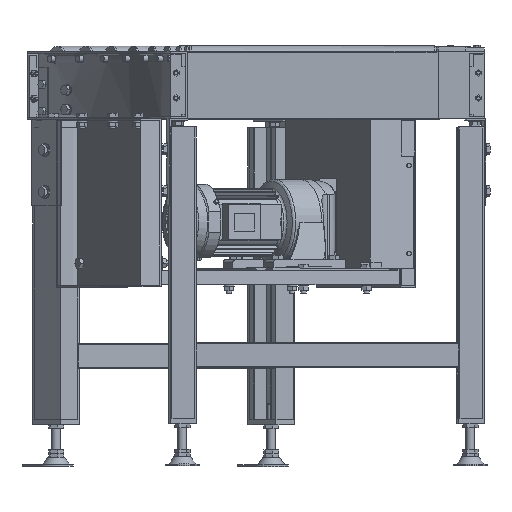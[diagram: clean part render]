
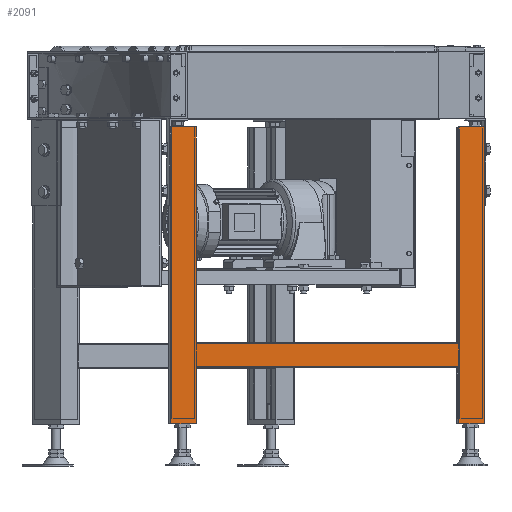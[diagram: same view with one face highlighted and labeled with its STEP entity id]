
A CAD part, top view. The second image highlights one B-rep face of the part: STEP entity #2091.
In plain terms, the highlighted planar face has unit normal (0.057, 0, 0.998).
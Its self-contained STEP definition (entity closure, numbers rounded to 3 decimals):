
#2091=ADVANCED_FACE('',(#16438),#16437,.T.);
#16437=PLANE('',#37655);
#16438=FACE_OUTER_BOUND('',#37656,.T.);
#37652=CARTESIAN_POINT('',(860.744,-685.,-11.197));
#37653=DIRECTION('',(0.057,0.,0.998));
#37654=DIRECTION('',(0.998,0.,-0.057));
#37655=AXIS2_PLACEMENT_3D('',#37652,#37653,#37654);
#37656=EDGE_LOOP('',(#51313,#51314,#51315,#51316,#51317,#51318,#51319,#51320,#51321,#51322,#51323,#51324,#51325,#51326));
#51313=ORIENTED_EDGE('',*,*,#61328,.T.);
#51314=ORIENTED_EDGE('',*,*,#61329,.T.);
#51315=ORIENTED_EDGE('',*,*,#61330,.F.);
#51316=ORIENTED_EDGE('',*,*,#61331,.T.);
#51317=ORIENTED_EDGE('',*,*,#61332,.T.);
#51318=ORIENTED_EDGE('',*,*,#61333,.T.);
#51319=ORIENTED_EDGE('',*,*,#61334,.F.);
#51320=ORIENTED_EDGE('',*,*,#61335,.F.);
#51321=ORIENTED_EDGE('',*,*,#61336,.F.);
#51322=ORIENTED_EDGE('',*,*,#61305,.T.);
#51323=ORIENTED_EDGE('',*,*,#61291,.T.);
#51324=ORIENTED_EDGE('',*,*,#61281,.F.);
#51325=ORIENTED_EDGE('',*,*,#61302,.F.);
#51326=ORIENTED_EDGE('',*,*,#61337,.F.);
#61281=EDGE_CURVE('',#87166,#87173,#87174,.T.);
#61291=EDGE_CURVE('',#87239,#87173,#87240,.T.);
#61302=EDGE_CURVE('',#87308,#87166,#87315,.T.);
#61305=EDGE_CURVE('',#87322,#87239,#87335,.T.);
#61328=EDGE_CURVE('',#87489,#87490,#87491,.T.);
#61329=EDGE_CURVE('',#87490,#87497,#87498,.T.);
#61330=EDGE_CURVE('',#87504,#87497,#87505,.T.);
#61331=EDGE_CURVE('',#87504,#87511,#87512,.T.);
#61332=EDGE_CURVE('',#87511,#87518,#87519,.T.);
#61333=EDGE_CURVE('',#87518,#87525,#87526,.T.);
#61334=EDGE_CURVE('',#87532,#87525,#87533,.T.);
#61335=EDGE_CURVE('',#87539,#87532,#87540,.T.);
#61336=EDGE_CURVE('',#87322,#87539,#87546,.T.);
#61337=EDGE_CURVE('',#87489,#87308,#87552,.T.);
#87166=VERTEX_POINT('',#128501);
#87173=VERTEX_POINT('',#128505);
#87174=LINE('',#128506,#128507);
#87239=VERTEX_POINT('',#128541);
#87240=LINE('',#128542,#128543);
#87308=VERTEX_POINT('',#128580);
#87315=LINE('',#128584,#128585);
#87322=VERTEX_POINT('',#128588);
#87335=LINE('',#128595,#128596);
#87489=VERTEX_POINT('',#128680);
#87490=VERTEX_POINT('',#128681);
#87491=LINE('',#128682,#128683);
#87497=VERTEX_POINT('',#128685);
#87498=LINE('',#128686,#128687);
#87504=VERTEX_POINT('',#128689);
#87505=LINE('',#128690,#128691);
#87511=VERTEX_POINT('',#128693);
#87512=LINE('',#128694,#128695);
#87518=VERTEX_POINT('',#128697);
#87519=LINE('',#128698,#128699);
#87525=VERTEX_POINT('',#128701);
#87526=LINE('',#128702,#128703);
#87532=VERTEX_POINT('',#128705);
#87533=LINE('',#128706,#128707);
#87539=VERTEX_POINT('',#128709);
#87540=LINE('',#128710,#128711);
#87546=LINE('',#128713,#128714);
#87552=LINE('',#128716,#128717);
#128501=CARTESIAN_POINT('',(870.728,-285.,-11.763));
#128505=CARTESIAN_POINT('',(870.728,-145.,-11.763));
#128506=CARTESIAN_POINT('',(870.728,-285.,-11.763));
#128507=VECTOR('',#128508,140.);
#128508=DIRECTION('',(0.,1.,0.));
#128541=CARTESIAN_POINT('',(915.656,-145.,-14.308));
#128542=CARTESIAN_POINT('',(915.656,-145.,-14.308));
#128543=VECTOR('',#128544,45.);
#128544=DIRECTION('',(-0.998,0.,0.057));
#128580=CARTESIAN_POINT('',(870.728,-675.,-11.763));
#128584=CARTESIAN_POINT('',(870.728,-675.,-11.763));
#128585=VECTOR('',#128586,390.);
#128586=DIRECTION('',(0.,1.,0.));
#128588=CARTESIAN_POINT('',(915.656,-530.,-14.308));
#128595=CARTESIAN_POINT('',(915.656,-530.,-14.308));
#128596=VECTOR('',#128597,385.);
#128597=DIRECTION('',(0.,1.,0.));
#128680=CARTESIAN_POINT('',(915.656,-675.,-14.308));
#128681=CARTESIAN_POINT('',(915.656,-575.,-14.308));
#128682=CARTESIAN_POINT('',(915.656,-675.,-14.308));
#128683=VECTOR('',#128684,100.);
#128684=DIRECTION('',(0.,1.,0.));
#128685=CARTESIAN_POINT('',(1384.904,-575.,-40.888));
#128686=CARTESIAN_POINT('',(915.656,-575.,-14.308));
#128687=VECTOR('',#128688,470.);
#128688=DIRECTION('',(0.998,0.,-0.057));
#128689=CARTESIAN_POINT('',(1384.904,-675.,-40.888));
#128690=CARTESIAN_POINT('',(1384.904,-675.,-40.888));
#128691=VECTOR('',#128692,100.);
#128692=DIRECTION('',(0.,1.,0.));
#128693=CARTESIAN_POINT('',(1429.832,-675.,-43.433));
#128694=CARTESIAN_POINT('',(1384.904,-675.,-40.888));
#128695=VECTOR('',#128696,45.);
#128696=DIRECTION('',(0.998,0.,-0.057));
#128697=CARTESIAN_POINT('',(1429.832,-285.,-43.433));
#128698=CARTESIAN_POINT('',(1429.832,-675.,-43.433));
#128699=VECTOR('',#128700,390.);
#128700=DIRECTION('',(0.,1.,0.));
#128701=CARTESIAN_POINT('',(1429.832,-145.,-43.433));
#128702=CARTESIAN_POINT('',(1429.832,-285.,-43.433));
#128703=VECTOR('',#128704,140.);
#128704=DIRECTION('',(0.,1.,0.));
#128705=CARTESIAN_POINT('',(1384.904,-145.,-40.888));
#128706=CARTESIAN_POINT('',(1384.904,-145.,-40.888));
#128707=VECTOR('',#128708,45.);
#128708=DIRECTION('',(0.998,0.,-0.057));
#128709=CARTESIAN_POINT('',(1384.904,-530.,-40.888));
#128710=CARTESIAN_POINT('',(1384.904,-530.,-40.888));
#128711=VECTOR('',#128712,385.);
#128712=DIRECTION('',(0.,1.,0.));
#128713=CARTESIAN_POINT('',(915.656,-530.,-14.308));
#128714=VECTOR('',#128715,470.);
#128715=DIRECTION('',(0.998,0.,-0.057));
#128716=CARTESIAN_POINT('',(915.656,-675.,-14.308));
#128717=VECTOR('',#128718,45.);
#128718=DIRECTION('',(-0.998,0.,0.057));
